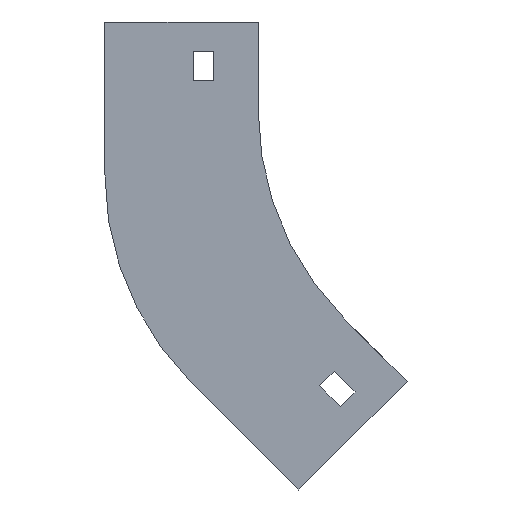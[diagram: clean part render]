
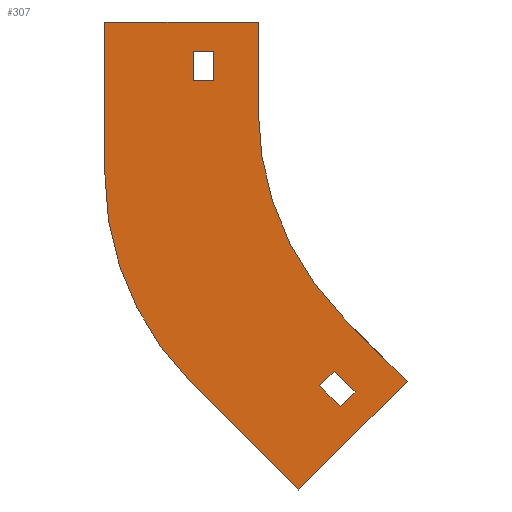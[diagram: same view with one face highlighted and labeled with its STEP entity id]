
A CAD part, left-side view. The second image highlights one B-rep face of the part: STEP entity #307.
In plain terms, the highlighted planar face has unit normal (-1, 0, 0).
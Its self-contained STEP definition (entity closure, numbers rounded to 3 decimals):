
#11 = ORIENTED_EDGE ( 'NONE', *, *, #160, .T. ) ;
#38 = DIRECTION ( 'NONE',  ( 0., 0.707, 0.707 ) ) ;
#41 = VERTEX_POINT ( 'NONE', #941 ) ;
#57 = DIRECTION ( 'NONE',  ( 0., 0., -1. ) ) ;
#61 = DIRECTION ( 'NONE',  ( 0., 0., 1. ) ) ;
#65 = CARTESIAN_POINT ( 'NONE',  ( -152., -32.825, -125.459 ) ) ;
#74 = CARTESIAN_POINT ( 'NONE',  ( -152., 52., 0. ) ) ;
#77 = VECTOR ( 'NONE', #1164, 1000. ) ;
#84 = ORIENTED_EDGE ( 'NONE', *, *, #1067, .F. ) ;
#86 = VERTEX_POINT ( 'NONE', #333 ) ;
#108 = VECTOR ( 'NONE', #38, 1000. ) ;
#109 = CARTESIAN_POINT ( 'NONE',  ( -152., 22., -10. ) ) ;
#127 = LINE ( 'NONE', #1205, #1267 ) ;
#128 = CARTESIAN_POINT ( 'NONE',  ( -152., -13.733, -158.693 ) ) ;
#136 = LINE ( 'NONE', #128, #905 ) ;
#146 = DIRECTION ( 'NONE',  ( 0., 0.707, -0.707 ) ) ;
#148 = VERTEX_POINT ( 'NONE', #977 ) ;
#153 = FACE_BOUND ( 'NONE', #183, .T. ) ;
#155 = EDGE_CURVE ( 'NONE', #713, #842, #778, .T. ) ;
#160 = EDGE_CURVE ( 'NONE', #1372, #148, #127, .T. ) ;
#163 = FACE_OUTER_BOUND ( 'NONE', #819, .T. ) ;
#173 = DIRECTION ( 'NONE',  ( -1., 0., 0. ) ) ;
#176 = VERTEX_POINT ( 'NONE', #358 ) ;
#183 = EDGE_LOOP ( 'NONE', ( #961, #11, #869, #310 ) ) ;
#188 = DIRECTION ( 'NONE',  ( 0., -1., 0. ) ) ;
#189 = VECTOR ( 'NONE', #671, 1000. ) ;
#210 = EDGE_CURVE ( 'NONE', #825, #1085, #1222, .T. ) ;
#234 = EDGE_CURVE ( 'NONE', #1049, #825, #383, .T. ) ;
#235 = VERTEX_POINT ( 'NONE', #268 ) ;
#238 = EDGE_CURVE ( 'NONE', #148, #441, #1013, .T. ) ;
#240 = CARTESIAN_POINT ( 'NONE',  ( -152., 52., -51.539 ) ) ;
#241 = CARTESIAN_POINT ( 'NONE',  ( -152., -50.503, -121.924 ) ) ;
#242 = EDGE_CURVE ( 'NONE', #86, #713, #852, .T. ) ;
#246 = ORIENTED_EDGE ( 'NONE', *, *, #1168, .F. ) ;
#247 = DIRECTION ( 'NONE',  ( 0., 0., -1. ) ) ;
#256 = LINE ( 'NONE', #690, #971 ) ;
#261 = DIRECTION ( 'NONE',  ( 0., 0.707, -0.707 ) ) ;
#268 = CARTESIAN_POINT ( 'NONE',  ( -152., -50.503, -121.924 ) ) ;
#278 = DIRECTION ( 'NONE',  ( 0., 1., 0. ) ) ;
#283 = DIRECTION ( 'NONE',  ( 0., -0.707, -0.707 ) ) ;
#300 = CARTESIAN_POINT ( 'NONE',  ( -152., 0., 0. ) ) ;
#307 = ADVANCED_FACE ( 'NONE', ( #153, #163, #1338 ), #478, .T. ) ;
#310 = ORIENTED_EDGE ( 'NONE', *, *, #660, .T. ) ;
#314 = ORIENTED_EDGE ( 'NONE', *, *, #242, .F. ) ;
#333 = CARTESIAN_POINT ( 'NONE',  ( -152., 22.711, -122.25 ) ) ;
#341 = ORIENTED_EDGE ( 'NONE', *, *, #689, .F. ) ;
#358 = CARTESIAN_POINT ( 'NONE',  ( -152., 0., -30. ) ) ;
#371 = DIRECTION ( 'NONE',  ( 0., 0., 1. ) ) ;
#375 = DIRECTION ( 'NONE',  ( 0., -1., 0. ) ) ;
#383 = LINE ( 'NONE', #815, #108 ) ;
#396 = ORIENTED_EDGE ( 'NONE', *, *, #1000, .F. ) ;
#401 = LINE ( 'NONE', #1243, #479 ) ;
#402 = ORIENTED_EDGE ( 'NONE', *, *, #1397, .F. ) ;
#412 = CARTESIAN_POINT ( 'NONE',  ( -152., 22., -20. ) ) ;
#415 = VECTOR ( 'NONE', #705, 1000. ) ;
#441 = VERTEX_POINT ( 'NONE', #412 ) ;
#445 = DIRECTION ( 'NONE',  ( 0., -0.707, 0.707 ) ) ;
#462 = VERTEX_POINT ( 'NONE', #300 ) ;
#478 = PLANE ( 'NONE',  #806 ) ;
#479 = VECTOR ( 'NONE', #61, 1000. ) ;
#577 = ORIENTED_EDGE ( 'NONE', *, *, #1354, .F. ) ;
#592 = DIRECTION ( 'NONE',  ( 1., 0., 0. ) ) ;
#600 = CARTESIAN_POINT ( 'NONE',  ( -152., -20.804, -123.338 ) ) ;
#621 = VECTOR ( 'NONE', #146, 1000. ) ;
#625 = DIRECTION ( 'NONE',  ( 0., 0., 1. ) ) ;
#640 = CARTESIAN_POINT ( 'NONE',  ( -152., -27.875, -130.409 ) ) ;
#653 = ORIENTED_EDGE ( 'NONE', *, *, #210, .F. ) ;
#656 = AXIS2_PLACEMENT_3D ( 'NONE', #1104, #173, #625 ) ;
#659 = ORIENTED_EDGE ( 'NONE', *, *, #890, .F. ) ;
#660 = EDGE_CURVE ( 'NONE', #441, #41, #401, .T. ) ;
#671 = DIRECTION ( 'NONE',  ( 0., 0., 1. ) ) ;
#683 = AXIS2_PLACEMENT_3D ( 'NONE', #895, #592, #57 ) ;
#689 = EDGE_CURVE ( 'NONE', #1316, #235, #1016, .T. ) ;
#690 = CARTESIAN_POINT ( 'NONE',  ( -152., -27.875, -130.409 ) ) ;
#705 = DIRECTION ( 'NONE',  ( 0., -0.707, -0.707 ) ) ;
#713 = VERTEX_POINT ( 'NONE', #1211 ) ;
#734 = EDGE_CURVE ( 'NONE', #176, #1316, #917, .T. ) ;
#778 = LINE ( 'NONE', #240, #189 ) ;
#781 = VERTEX_POINT ( 'NONE', #640 ) ;
#806 = AXIS2_PLACEMENT_3D ( 'NONE', #901, #1333, #371 ) ;
#810 = LINE ( 'NONE', #1234, #415 ) ;
#813 = VECTOR ( 'NONE', #283, 1000. ) ;
#815 = CARTESIAN_POINT ( 'NONE',  ( -152., -32.825, -125.459 ) ) ;
#819 = EDGE_LOOP ( 'NONE', ( #84, #1313, #314, #402, #577, #341, #1111, #659 ) ) ;
#825 = VERTEX_POINT ( 'NONE', #1272 ) ;
#842 = VERTEX_POINT ( 'NONE', #846 ) ;
#846 = CARTESIAN_POINT ( 'NONE',  ( -152., 52., 0. ) ) ;
#852 = CIRCLE ( 'NONE', #683, 100. ) ;
#869 = ORIENTED_EDGE ( 'NONE', *, *, #238, .T. ) ;
#890 = EDGE_CURVE ( 'NONE', #462, #176, #953, .T. ) ;
#892 = VECTOR ( 'NONE', #278, 1000. ) ;
#895 = CARTESIAN_POINT ( 'NONE',  ( -152., -48., -51.539 ) ) ;
#896 = LINE ( 'NONE', #241, #621 ) ;
#901 = CARTESIAN_POINT ( 'NONE',  ( -152., -100., -30. ) ) ;
#905 = VECTOR ( 'NONE', #1318, 1000. ) ;
#913 = CARTESIAN_POINT ( 'NONE',  ( -152., -20.804, -123.338 ) ) ;
#917 = CIRCLE ( 'NONE', #656, 100. ) ;
#941 = CARTESIAN_POINT ( 'NONE',  ( -152., 22., -10. ) ) ;
#953 = LINE ( 'NONE', #1080, #77 ) ;
#961 = ORIENTED_EDGE ( 'NONE', *, *, #1319, .T. ) ;
#971 = VECTOR ( 'NONE', #445, 1000. ) ;
#977 = CARTESIAN_POINT ( 'NONE',  ( -152., 15., -20. ) ) ;
#989 = VERTEX_POINT ( 'NONE', #1320 ) ;
#992 = CARTESIAN_POINT ( 'NONE',  ( -152., 15., -10. ) ) ;
#1000 = EDGE_CURVE ( 'NONE', #781, #1049, #256, .T. ) ;
#1012 = EDGE_LOOP ( 'NONE', ( #1027, #396, #246, #653 ) ) ;
#1013 = LINE ( 'NONE', #1239, #892 ) ;
#1016 = LINE ( 'NONE', #1144, #813 ) ;
#1027 = ORIENTED_EDGE ( 'NONE', *, *, #234, .F. ) ;
#1037 = VECTOR ( 'NONE', #188, 1000. ) ;
#1049 = VERTEX_POINT ( 'NONE', #65 ) ;
#1067 = EDGE_CURVE ( 'NONE', #842, #462, #1150, .T. ) ;
#1071 = LINE ( 'NONE', #109, #1037 ) ;
#1080 = CARTESIAN_POINT ( 'NONE',  ( -152., 0., 0. ) ) ;
#1085 = VERTEX_POINT ( 'NONE', #600 ) ;
#1104 = CARTESIAN_POINT ( 'NONE',  ( -152., -100., -30. ) ) ;
#1111 = ORIENTED_EDGE ( 'NONE', *, *, #734, .F. ) ;
#1144 = CARTESIAN_POINT ( 'NONE',  ( -152., -29.289, -100.711 ) ) ;
#1150 = LINE ( 'NONE', #74, #1360 ) ;
#1164 = DIRECTION ( 'NONE',  ( 0., 0., -1. ) ) ;
#1168 = EDGE_CURVE ( 'NONE', #1085, #781, #810, .T. ) ;
#1179 = CARTESIAN_POINT ( 'NONE',  ( -152., -29.289, -100.711 ) ) ;
#1205 = CARTESIAN_POINT ( 'NONE',  ( -152., 15., -10. ) ) ;
#1208 = VECTOR ( 'NONE', #261, 1000. ) ;
#1211 = CARTESIAN_POINT ( 'NONE',  ( -152., 52., -51.539 ) ) ;
#1222 = LINE ( 'NONE', #913, #1208 ) ;
#1234 = CARTESIAN_POINT ( 'NONE',  ( -152., -27.875, -130.409 ) ) ;
#1239 = CARTESIAN_POINT ( 'NONE',  ( -152., 22., -20. ) ) ;
#1243 = CARTESIAN_POINT ( 'NONE',  ( -152., 22., -10. ) ) ;
#1267 = VECTOR ( 'NONE', #247, 1000. ) ;
#1272 = CARTESIAN_POINT ( 'NONE',  ( -152., -25.754, -118.388 ) ) ;
#1313 = ORIENTED_EDGE ( 'NONE', *, *, #155, .F. ) ;
#1316 = VERTEX_POINT ( 'NONE', #1179 ) ;
#1318 = DIRECTION ( 'NONE',  ( 0., 0.707, 0.707 ) ) ;
#1319 = EDGE_CURVE ( 'NONE', #41, #1372, #1071, .T. ) ;
#1320 = CARTESIAN_POINT ( 'NONE',  ( -152., -13.733, -158.693 ) ) ;
#1333 = DIRECTION ( 'NONE',  ( -1., 0., 0. ) ) ;
#1338 = FACE_BOUND ( 'NONE', #1012, .T. ) ;
#1354 = EDGE_CURVE ( 'NONE', #235, #989, #896, .T. ) ;
#1360 = VECTOR ( 'NONE', #375, 1000. ) ;
#1372 = VERTEX_POINT ( 'NONE', #992 ) ;
#1397 = EDGE_CURVE ( 'NONE', #989, #86, #136, .T. ) ;
